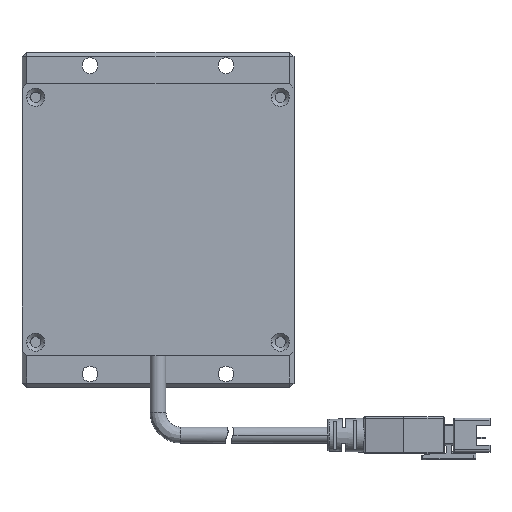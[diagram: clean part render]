
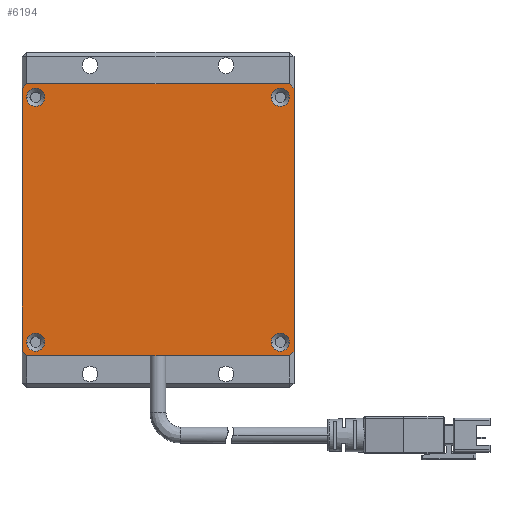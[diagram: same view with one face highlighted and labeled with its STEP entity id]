
A CAD part, top view. The second image highlights one B-rep face of the part: STEP entity #6194.
In plain terms, the highlighted planar face has unit normal (0, 0, 1).
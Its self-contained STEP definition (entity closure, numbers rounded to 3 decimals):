
#75 = EDGE_CURVE ( 'NONE', #7374, #5436, #5552, .T. ) ;
#178 = CARTESIAN_POINT ( 'NONE',  ( 25., 27., 22.5 ) ) ;
#217 = DIRECTION ( 'NONE',  ( 1., 0., 0. ) ) ;
#321 = DIRECTION ( 'NONE',  ( 0., 0., -1. ) ) ;
#358 = PLANE ( 'NONE',  #3491 ) ;
#439 = EDGE_LOOP ( 'NONE', ( #6974, #5446 ) ) ;
#481 = DIRECTION ( 'NONE',  ( 1., 0., 0. ) ) ;
#520 = EDGE_CURVE ( 'NONE', #771, #6020, #2026, .T. ) ;
#528 = DIRECTION ( 'NONE',  ( 1., 0., 0. ) ) ;
#752 = VERTEX_POINT ( 'NONE', #5055 ) ;
#771 = VERTEX_POINT ( 'NONE', #1034 ) ;
#778 = VECTOR ( 'NONE', #1495, 1000. ) ;
#935 = CIRCLE ( 'NONE', #2071, 2. ) ;
#947 = FACE_BOUND ( 'NONE', #7098, .T. ) ;
#1031 = CARTESIAN_POINT ( 'NONE',  ( 30., -30., 22.5 ) ) ;
#1034 = CARTESIAN_POINT ( 'NONE',  ( -29., -27., 22.5 ) ) ;
#1083 = CIRCLE ( 'NONE', #5792, 2. ) ;
#1106 = CIRCLE ( 'NONE', #6782, 2. ) ;
#1147 = EDGE_CURVE ( 'NONE', #6609, #2945, #1149, .T. ) ;
#1149 = LINE ( 'NONE', #7900, #2445 ) ;
#1491 = VERTEX_POINT ( 'NONE', #7322 ) ;
#1492 = EDGE_CURVE ( 'NONE', #8308, #6609, #5134, .T. ) ;
#1495 = DIRECTION ( 'NONE',  ( -0.707, 0.707, 0. ) ) ;
#1525 = CARTESIAN_POINT ( 'NONE',  ( -30., -30., 22.5 ) ) ;
#1617 = VECTOR ( 'NONE', #4334, 1000. ) ;
#1855 = CARTESIAN_POINT ( 'NONE',  ( -29., -30., 22.5 ) ) ;
#1963 = VECTOR ( 'NONE', #3096, 1000. ) ;
#1968 = CARTESIAN_POINT ( 'NONE',  ( 29., 27., 22.5 ) ) ;
#2026 = CIRCLE ( 'NONE', #4516, 2. ) ;
#2071 = AXIS2_PLACEMENT_3D ( 'NONE', #3910, #7254, #5298 ) ;
#2082 = LINE ( 'NONE', #3063, #3911 ) ;
#2093 = VERTEX_POINT ( 'NONE', #7280 ) ;
#2169 = DIRECTION ( 'NONE',  ( 1., 0., 0. ) ) ;
#2174 = AXIS2_PLACEMENT_3D ( 'NONE', #5577, #6256, #2169 ) ;
#2184 = CARTESIAN_POINT ( 'NONE',  ( -30., 29., 22.5 ) ) ;
#2306 = ORIENTED_EDGE ( 'NONE', *, *, #4332, .T. ) ;
#2362 = CARTESIAN_POINT ( 'NONE',  ( -29., 27., 22.5 ) ) ;
#2445 = VECTOR ( 'NONE', #4227, 1000. ) ;
#2584 = CARTESIAN_POINT ( 'NONE',  ( -29., 30., 22.5 ) ) ;
#2607 = AXIS2_PLACEMENT_3D ( 'NONE', #5737, #5939, #481 ) ;
#2619 = CARTESIAN_POINT ( 'NONE',  ( 30., -29., 22.5 ) ) ;
#2636 = ORIENTED_EDGE ( 'NONE', *, *, #1492, .T. ) ;
#2697 = EDGE_CURVE ( 'NONE', #752, #5834, #2082, .T. ) ;
#2934 = ORIENTED_EDGE ( 'NONE', *, *, #2697, .T. ) ;
#2945 = VERTEX_POINT ( 'NONE', #6825 ) ;
#3002 = FACE_OUTER_BOUND ( 'NONE', #4554, .T. ) ;
#3034 = VERTEX_POINT ( 'NONE', #178 ) ;
#3063 = CARTESIAN_POINT ( 'NONE',  ( -30., 30., 22.5 ) ) ;
#3070 = DIRECTION ( 'NONE',  ( 1., 0., 0. ) ) ;
#3096 = DIRECTION ( 'NONE',  ( 0., 1., 0. ) ) ;
#3148 = DIRECTION ( 'NONE',  ( 0., 0., 1. ) ) ;
#3190 = DIRECTION ( 'NONE',  ( 0., 0., 1. ) ) ;
#3279 = ORIENTED_EDGE ( 'NONE', *, *, #7268, .F. ) ;
#3323 = VERTEX_POINT ( 'NONE', #1968 ) ;
#3412 = LINE ( 'NONE', #2184, #1617 ) ;
#3491 = AXIS2_PLACEMENT_3D ( 'NONE', #5164, #321, #6413 ) ;
#3581 = ORIENTED_EDGE ( 'NONE', *, *, #520, .F. ) ;
#3590 = EDGE_CURVE ( 'NONE', #6902, #752, #6224, .T. ) ;
#3653 = CARTESIAN_POINT ( 'NONE',  ( 27., 27., 22.5 ) ) ;
#3678 = ORIENTED_EDGE ( 'NONE', *, *, #4682, .T. ) ;
#3727 = EDGE_CURVE ( 'NONE', #6020, #771, #1106, .T. ) ;
#3813 = CARTESIAN_POINT ( 'NONE',  ( -27., 27., 22.5 ) ) ;
#3864 = DIRECTION ( 'NONE',  ( 1., 0., 0. ) ) ;
#3910 = CARTESIAN_POINT ( 'NONE',  ( -27., 27., 22.5 ) ) ;
#3911 = VECTOR ( 'NONE', #8550, 1000. ) ;
#3924 = DIRECTION ( 'NONE',  ( 0.707, -0.707, 0. ) ) ;
#4124 = ORIENTED_EDGE ( 'NONE', *, *, #5760, .F. ) ;
#4181 = EDGE_CURVE ( 'NONE', #7487, #8308, #8754, .T. ) ;
#4227 = DIRECTION ( 'NONE',  ( 1., 0., 0. ) ) ;
#4228 = CARTESIAN_POINT ( 'NONE',  ( -25., -27., 22.5 ) ) ;
#4247 = EDGE_CURVE ( 'NONE', #2093, #6638, #6003, .T. ) ;
#4286 = DIRECTION ( 'NONE',  ( 0., -1., 0. ) ) ;
#4298 = CIRCLE ( 'NONE', #2607, 2. ) ;
#4332 = EDGE_CURVE ( 'NONE', #1491, #6902, #8749, .T. ) ;
#4334 = DIRECTION ( 'NONE',  ( -0.707, -0.707, 0. ) ) ;
#4477 = CARTESIAN_POINT ( 'NONE',  ( 27., 27., 22.5 ) ) ;
#4516 = AXIS2_PLACEMENT_3D ( 'NONE', #7177, #3190, #3864 ) ;
#4554 = EDGE_LOOP ( 'NONE', ( #8531, #2636, #7221, #3678, #2306, #8180, #2934, #4847 ) ) ;
#4569 = AXIS2_PLACEMENT_3D ( 'NONE', #4477, #6471, #7196 ) ;
#4586 = CARTESIAN_POINT ( 'NONE',  ( 30., 29., 22.5 ) ) ;
#4641 = CARTESIAN_POINT ( 'NONE',  ( -25., 27., 22.5 ) ) ;
#4682 = EDGE_CURVE ( 'NONE', #2945, #1491, #8200, .T. ) ;
#4716 = DIRECTION ( 'NONE',  ( 0.707, 0.707, 0. ) ) ;
#4721 = FACE_BOUND ( 'NONE', #5529, .T. ) ;
#4780 = ORIENTED_EDGE ( 'NONE', *, *, #3727, .F. ) ;
#4847 = ORIENTED_EDGE ( 'NONE', *, *, #5619, .T. ) ;
#5039 = DIRECTION ( 'NONE',  ( 0., 0., 1. ) ) ;
#5055 = CARTESIAN_POINT ( 'NONE',  ( 29., 30., 22.5 ) ) ;
#5134 = LINE ( 'NONE', #1855, #8378 ) ;
#5146 = EDGE_CURVE ( 'NONE', #3323, #3034, #1083, .T. ) ;
#5164 = CARTESIAN_POINT ( 'NONE',  ( 0., 0., 22.5 ) ) ;
#5199 = ORIENTED_EDGE ( 'NONE', *, *, #4247, .F. ) ;
#5298 = DIRECTION ( 'NONE',  ( 1., 0., 0. ) ) ;
#5436 = VERTEX_POINT ( 'NONE', #4641 ) ;
#5446 = ORIENTED_EDGE ( 'NONE', *, *, #6171, .F. ) ;
#5529 = EDGE_LOOP ( 'NONE', ( #4124, #5199 ) ) ;
#5552 = CIRCLE ( 'NONE', #8274, 2. ) ;
#5577 = CARTESIAN_POINT ( 'NONE',  ( 27., -27., 22.5 ) ) ;
#5619 = EDGE_CURVE ( 'NONE', #5834, #7487, #3412, .T. ) ;
#5631 = CARTESIAN_POINT ( 'NONE',  ( 29., -27., 22.5 ) ) ;
#5737 = CARTESIAN_POINT ( 'NONE',  ( 27., -27., 22.5 ) ) ;
#5760 = EDGE_CURVE ( 'NONE', #6638, #2093, #4298, .T. ) ;
#5792 = AXIS2_PLACEMENT_3D ( 'NONE', #3653, #5039, #217 ) ;
#5834 = VERTEX_POINT ( 'NONE', #2584 ) ;
#5939 = DIRECTION ( 'NONE',  ( 0., 0., 1. ) ) ;
#5982 = CARTESIAN_POINT ( 'NONE',  ( -27., -27., 22.5 ) ) ;
#6003 = CIRCLE ( 'NONE', #2174, 2. ) ;
#6020 = VERTEX_POINT ( 'NONE', #4228 ) ;
#6171 = EDGE_CURVE ( 'NONE', #3034, #3323, #8712, .T. ) ;
#6194 = ADVANCED_FACE ( 'NONE', ( #947, #4721, #8511, #8408, #3002 ), #358, .F. ) ;
#6224 = LINE ( 'NONE', #7708, #778 ) ;
#6256 = DIRECTION ( 'NONE',  ( 0., 0., 1. ) ) ;
#6380 = EDGE_LOOP ( 'NONE', ( #3279, #6917 ) ) ;
#6413 = DIRECTION ( 'NONE',  ( -1., 0., 0. ) ) ;
#6429 = VECTOR ( 'NONE', #4716, 1000. ) ;
#6471 = DIRECTION ( 'NONE',  ( 0., 0., 1. ) ) ;
#6560 = DIRECTION ( 'NONE',  ( 0., 0., 1. ) ) ;
#6609 = VERTEX_POINT ( 'NONE', #6918 ) ;
#6638 = VERTEX_POINT ( 'NONE', #5631 ) ;
#6782 = AXIS2_PLACEMENT_3D ( 'NONE', #5982, #6560, #528 ) ;
#6825 = CARTESIAN_POINT ( 'NONE',  ( 29., -30., 22.5 ) ) ;
#6902 = VERTEX_POINT ( 'NONE', #4586 ) ;
#6917 = ORIENTED_EDGE ( 'NONE', *, *, #75, .F. ) ;
#6918 = CARTESIAN_POINT ( 'NONE',  ( -29., -30., 22.5 ) ) ;
#6974 = ORIENTED_EDGE ( 'NONE', *, *, #5146, .F. ) ;
#7098 = EDGE_LOOP ( 'NONE', ( #4780, #3581 ) ) ;
#7177 = CARTESIAN_POINT ( 'NONE',  ( -27., -27., 22.5 ) ) ;
#7196 = DIRECTION ( 'NONE',  ( 1., 0., 0. ) ) ;
#7221 = ORIENTED_EDGE ( 'NONE', *, *, #1147, .T. ) ;
#7254 = DIRECTION ( 'NONE',  ( 0., 0., 1. ) ) ;
#7268 = EDGE_CURVE ( 'NONE', #5436, #7374, #935, .T. ) ;
#7280 = CARTESIAN_POINT ( 'NONE',  ( 25., -27., 22.5 ) ) ;
#7322 = CARTESIAN_POINT ( 'NONE',  ( 30., -29., 22.5 ) ) ;
#7374 = VERTEX_POINT ( 'NONE', #2362 ) ;
#7487 = VERTEX_POINT ( 'NONE', #7932 ) ;
#7708 = CARTESIAN_POINT ( 'NONE',  ( 29., 30., 22.5 ) ) ;
#7808 = CARTESIAN_POINT ( 'NONE',  ( -30., -29., 22.5 ) ) ;
#7900 = CARTESIAN_POINT ( 'NONE',  ( -30., -30., 22.5 ) ) ;
#7932 = CARTESIAN_POINT ( 'NONE',  ( -30., 29., 22.5 ) ) ;
#8180 = ORIENTED_EDGE ( 'NONE', *, *, #3590, .T. ) ;
#8200 = LINE ( 'NONE', #2619, #6429 ) ;
#8274 = AXIS2_PLACEMENT_3D ( 'NONE', #3813, #3148, #3070 ) ;
#8308 = VERTEX_POINT ( 'NONE', #7808 ) ;
#8378 = VECTOR ( 'NONE', #3924, 1000. ) ;
#8408 = FACE_BOUND ( 'NONE', #6380, .T. ) ;
#8511 = FACE_BOUND ( 'NONE', #439, .T. ) ;
#8531 = ORIENTED_EDGE ( 'NONE', *, *, #4181, .T. ) ;
#8550 = DIRECTION ( 'NONE',  ( -1., 0., 0. ) ) ;
#8555 = VECTOR ( 'NONE', #4286, 1000. ) ;
#8712 = CIRCLE ( 'NONE', #4569, 2. ) ;
#8749 = LINE ( 'NONE', #1031, #1963 ) ;
#8754 = LINE ( 'NONE', #1525, #8555 ) ;
